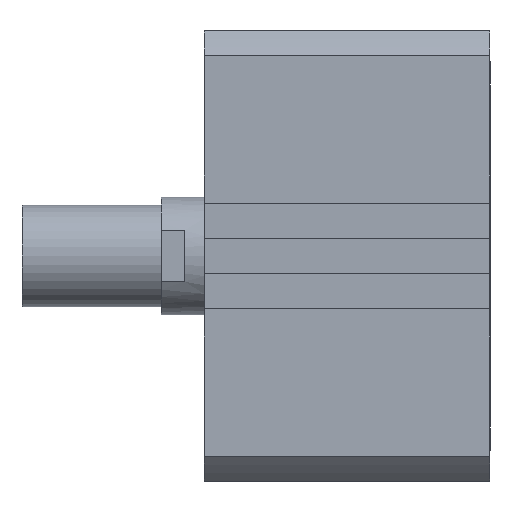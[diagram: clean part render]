
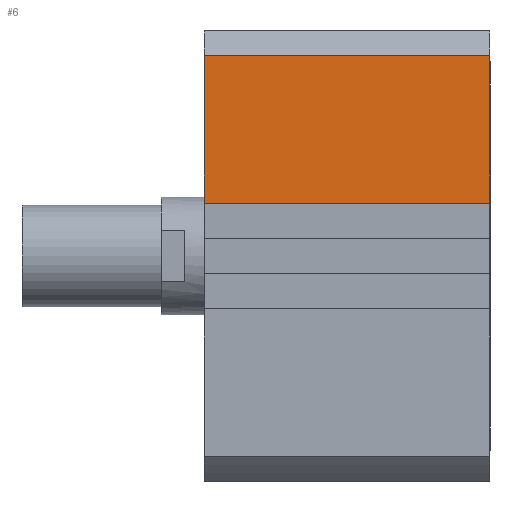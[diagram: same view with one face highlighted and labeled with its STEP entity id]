
A CAD part, left-side view. The second image highlights one B-rep face of the part: STEP entity #6.
In plain terms, the highlighted planar face has unit normal (-1, 0, 0).
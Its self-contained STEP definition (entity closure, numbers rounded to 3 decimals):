
#6 = ADVANCED_FACE ( 'NONE', ( #2938 ), #2004, .T. ) ;
#44 = AXIS2_PLACEMENT_3D ( 'NONE', #1498, #752, #479 ) ;
#78 = ORIENTED_EDGE ( 'NONE', *, *, #1517, .F. ) ;
#253 = ORIENTED_EDGE ( 'NONE', *, *, #2224, .F. ) ;
#259 = ORIENTED_EDGE ( 'NONE', *, *, #1236, .T. ) ;
#351 = CARTESIAN_POINT ( 'NONE',  ( -57.5, -73., 13.5 ) ) ;
#362 = VERTEX_POINT ( 'NONE', #1584 ) ;
#402 = DIRECTION ( 'NONE',  ( 0., 0., 1. ) ) ;
#428 = VERTEX_POINT ( 'NONE', #2087 ) ;
#475 = DIRECTION ( 'NONE',  ( 0., 0., 1. ) ) ;
#479 = DIRECTION ( 'NONE',  ( 0., 0., 1. ) ) ;
#629 = DIRECTION ( 'NONE',  ( 0., 1., 0. ) ) ;
#708 = VERTEX_POINT ( 'NONE', #1261 ) ;
#727 = LINE ( 'NONE', #2078, #963 ) ;
#752 = DIRECTION ( 'NONE',  ( -1., 0., 0. ) ) ;
#963 = VECTOR ( 'NONE', #402, 1000. ) ;
#1065 = CARTESIAN_POINT ( 'NONE',  ( -57.5, 0., 51.213 ) ) ;
#1236 = EDGE_CURVE ( 'NONE', #708, #362, #2454, .T. ) ;
#1261 = CARTESIAN_POINT ( 'NONE',  ( -57.5, -73., 13.5 ) ) ;
#1285 = VECTOR ( 'NONE', #2641, 1000. ) ;
#1312 = VECTOR ( 'NONE', #629, 1000. ) ;
#1373 = LINE ( 'NONE', #351, #1285 ) ;
#1498 = CARTESIAN_POINT ( 'NONE',  ( -57.5, -73., 0. ) ) ;
#1517 = EDGE_CURVE ( 'NONE', #708, #428, #1373, .T. ) ;
#1584 = CARTESIAN_POINT ( 'NONE',  ( -57.5, -73., 51.213 ) ) ;
#1898 = CARTESIAN_POINT ( 'NONE',  ( -57.5, -73., 51.213 ) ) ;
#2004 = PLANE ( 'NONE',  #44 ) ;
#2070 = LINE ( 'NONE', #1898, #1312 ) ;
#2078 = CARTESIAN_POINT ( 'NONE',  ( -57.5, 0., 0. ) ) ;
#2087 = CARTESIAN_POINT ( 'NONE',  ( -57.5, 0., 13.5 ) ) ;
#2144 = EDGE_LOOP ( 'NONE', ( #253, #78, #259, #2960 ) ) ;
#2224 = EDGE_CURVE ( 'NONE', #428, #2242, #727, .T. ) ;
#2242 = VERTEX_POINT ( 'NONE', #1065 ) ;
#2454 = LINE ( 'NONE', #3248, #3264 ) ;
#2641 = DIRECTION ( 'NONE',  ( 0., 1., 0. ) ) ;
#2938 = FACE_OUTER_BOUND ( 'NONE', #2144, .T. ) ;
#2960 = ORIENTED_EDGE ( 'NONE', *, *, #3302, .T. ) ;
#3248 = CARTESIAN_POINT ( 'NONE',  ( -57.5, -73., 0. ) ) ;
#3264 = VECTOR ( 'NONE', #475, 1000. ) ;
#3302 = EDGE_CURVE ( 'NONE', #362, #2242, #2070, .T. ) ;
